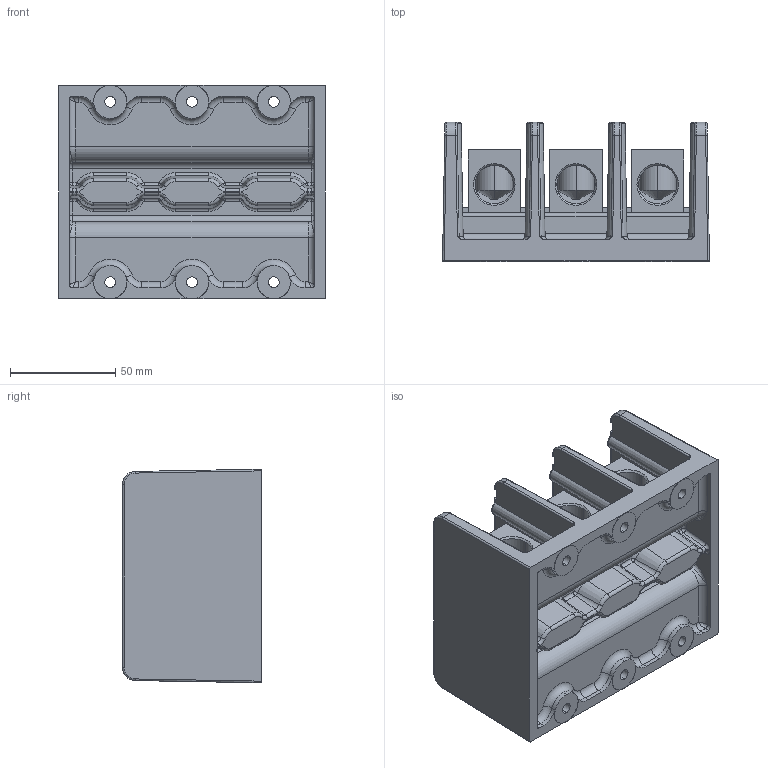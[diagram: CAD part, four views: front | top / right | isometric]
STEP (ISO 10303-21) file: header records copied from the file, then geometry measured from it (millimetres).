
FILE_DESCRIPTION (( 'STEP AP214' ), '1' );
FILE_NAME ('1433126.STEP', '2013-07-08T11:59:09', ( 'admin' ), ( '' ), 'SwSTEP 2.0', 'SolidWorks 2011', '' );
FILE_SCHEMA (( 'AUTOMOTIVE_DESIGN' ));
Length unit declared in the file: inch
Products named in the file (5): 9775110; 97974xx_9797418; 9799231; 9812103; 1433126
Assembly tree (13 placements, depth 2):
  1433126
    9775110  x3
    97974xx_9797418  x3
    9812103
    9799231  x6
Bounding box: 127 x 66.19 x 101.7 mm (x, y, z)
Volume: 342043.7 mm3; surface area: 136922.7 mm2
Topology: 13 solids, 13 shells, 1075 faces, 2620 edges, 1572 vertices
Faces by surface type: plane 382, cylinder 363, cone 134, torus 120, bspline 60, sphere 16
Entity records: 26290 total; most frequent: CARTESIAN_POINT 7550, DIRECTION 3972, ORIENTED_EDGE 3876, EDGE_CURVE 1938, AXIS2_PLACEMENT_3D 1538, VERTEX_POINT 1168, LINE 896, VECTOR 896
